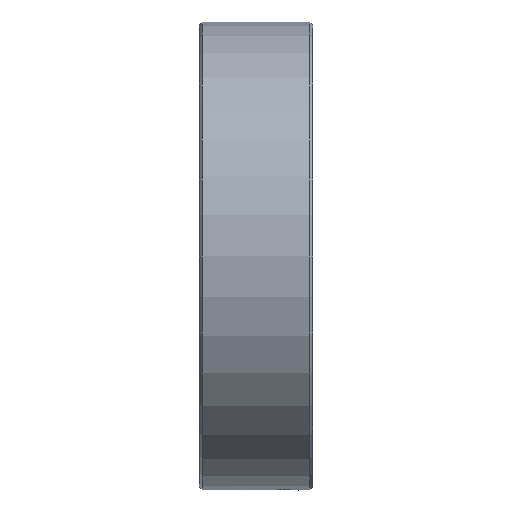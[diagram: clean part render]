
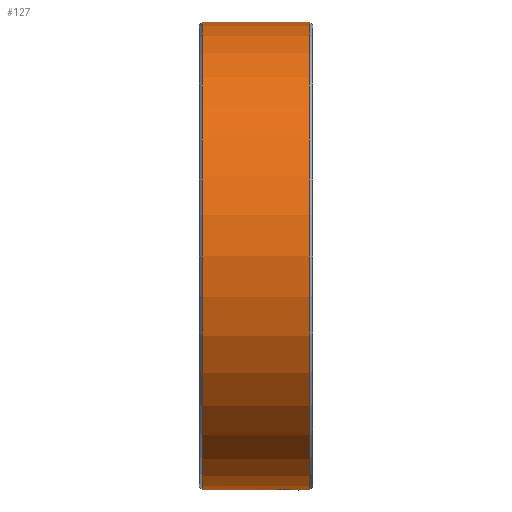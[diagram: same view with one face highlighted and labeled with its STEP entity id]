
A CAD part, front view. The second image highlights one B-rep face of the part: STEP entity #127.
In plain terms, the highlighted cylindrical face has radius 16.5 mm (diameter 33 mm), a partial arc.
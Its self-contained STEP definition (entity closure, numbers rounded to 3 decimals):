
#24 = AXIS2_PLACEMENT_3D ( 'NONE', #934, #345, #493 ) ;
#33 = CARTESIAN_POINT ( 'NONE',  ( -2.262, -0.974, -16.471 ) ) ;
#41 = DIRECTION ( 'NONE',  ( -1., 0., 0. ) ) ;
#46 = CARTESIAN_POINT ( 'NONE',  ( -0.2, 0., -16.5 ) ) ;
#50 = EDGE_CURVE ( 'NONE', #246, #128, #787, .T. ) ;
#53 = EDGE_CURVE ( 'NONE', #755, #907, #208, .T. ) ;
#69 = ORIENTED_EDGE ( 'NONE', *, *, #679, .F. ) ;
#80 = CARTESIAN_POINT ( 'NONE',  ( -1.2, -0.615, -16.489 ) ) ;
#99 = EDGE_CURVE ( 'NONE', #576, #134, #872, .T. ) ;
#100 = DIRECTION ( 'NONE',  ( -1., 0., 0. ) ) ;
#119 = B_SPLINE_CURVE_WITH_KNOTS ( 'NONE', 3,
 ( #378, #894, #223, #525, #80, #247, #844, #544, #321, #618 ),
 .UNSPECIFIED., .F., .F.,
 ( 4, 2, 2, 2, 4 ),
 ( 0.003, 0.004, 0.004, 0.004, 0.005 ),
 .UNSPECIFIED. ) ;
#127 = ADVANCED_FACE ( 'NONE', ( #349 ), #644, .T. ) ;
#128 = VERTEX_POINT ( 'NONE', #703 ) ;
#134 = VERTEX_POINT ( 'NONE', #803 ) ;
#142 = ORIENTED_EDGE ( 'NONE', *, *, #99, .T. ) ;
#145 = CARTESIAN_POINT ( 'NONE',  ( -7.8, 0., 0. ) ) ;
#162 = VECTOR ( 'NONE', #100, 1000. ) ;
#172 = DIRECTION ( 'NONE',  ( -1., 0., 0. ) ) ;
#208 = B_SPLINE_CURVE_WITH_KNOTS ( 'NONE', 3,
 ( #855, #926, #33, #694, #261, #482, #331, #627 ),
 .UNSPECIFIED., .F., .F.,
 ( 4, 2, 2, 4 ),
 ( 0.005, 0.005, 0.005, 0.006 ),
 .UNSPECIFIED. ) ;
#223 = CARTESIAN_POINT ( 'NONE',  ( -1.026, -0.262, -16.498 ) ) ;
#230 = ORIENTED_EDGE ( 'NONE', *, *, #949, .F. ) ;
#246 = VERTEX_POINT ( 'NONE', #46 ) ;
#247 = CARTESIAN_POINT ( 'NONE',  ( -1.385, -0.799, -16.481 ) ) ;
#249 = CARTESIAN_POINT ( 'NONE',  ( -92.99, 0., -16.5 ) ) ;
#261 = CARTESIAN_POINT ( 'NONE',  ( -2.615, -0.8, -16.481 ) ) ;
#278 = CIRCLE ( 'NONE', #653, 16.5 ) ;
#302 = ORIENTED_EDGE ( 'NONE', *, *, #53, .F. ) ;
#321 = CARTESIAN_POINT ( 'NONE',  ( -1.868, -1., -16.47 ) ) ;
#331 = CARTESIAN_POINT ( 'NONE',  ( -3., -0.264, -16.5 ) ) ;
#345 = DIRECTION ( 'NONE',  ( -1., 0., 0. ) ) ;
#349 = FACE_OUTER_BOUND ( 'NONE', #733, .T. ) ;
#359 = CARTESIAN_POINT ( 'NONE',  ( -2., -1., -16.47 ) ) ;
#360 = VECTOR ( 'NONE', #172, 1000. ) ;
#369 = DIRECTION ( 'NONE',  ( 0., 0., 1. ) ) ;
#378 = CARTESIAN_POINT ( 'NONE',  ( -1., 0., -16.5 ) ) ;
#393 = ORIENTED_EDGE ( 'NONE', *, *, #436, .F. ) ;
#409 = LINE ( 'NONE', #249, #360 ) ;
#436 = EDGE_CURVE ( 'NONE', #128, #755, #119, .T. ) ;
#438 = CIRCLE ( 'NONE', #497, 16.5 ) ;
#461 = ORIENTED_EDGE ( 'NONE', *, *, #521, .T. ) ;
#473 = CARTESIAN_POINT ( 'NONE',  ( -0.2, 0., 16.5 ) ) ;
#482 = CARTESIAN_POINT ( 'NONE',  ( -2.891, -0.523, -16.493 ) ) ;
#493 = DIRECTION ( 'NONE',  ( 0., 0., 1. ) ) ;
#497 = AXIS2_PLACEMENT_3D ( 'NONE', #145, #684, #369 ) ;
#521 = EDGE_CURVE ( 'NONE', #246, #576, #278, .T. ) ;
#525 = CARTESIAN_POINT ( 'NONE',  ( -1.126, -0.503, -16.493 ) ) ;
#530 = ORIENTED_EDGE ( 'NONE', *, *, #50, .F. ) ;
#544 = CARTESIAN_POINT ( 'NONE',  ( -1.738, -0.974, -16.471 ) ) ;
#562 = CARTESIAN_POINT ( 'NONE',  ( -92.99, 0., 16.5 ) ) ;
#571 = CARTESIAN_POINT ( 'NONE',  ( -7.8, 0., -16.5 ) ) ;
#576 = VERTEX_POINT ( 'NONE', #473 ) ;
#618 = CARTESIAN_POINT ( 'NONE',  ( -2., -1., -16.47 ) ) ;
#627 = CARTESIAN_POINT ( 'NONE',  ( -3., 0., -16.5 ) ) ;
#641 = CARTESIAN_POINT ( 'NONE',  ( -0.2, 0., 0. ) ) ;
#644 = CYLINDRICAL_SURFACE ( 'NONE', #24, 16.5 ) ;
#653 = AXIS2_PLACEMENT_3D ( 'NONE', #641, #41, #715 ) ;
#679 = EDGE_CURVE ( 'NONE', #907, #841, #409, .T. ) ;
#684 = DIRECTION ( 'NONE',  ( -1., 0., 0. ) ) ;
#694 = CARTESIAN_POINT ( 'NONE',  ( -2.504, -0.874, -16.477 ) ) ;
#703 = CARTESIAN_POINT ( 'NONE',  ( -1., 0., -16.5 ) ) ;
#707 = DIRECTION ( 'NONE',  ( -1., 0., 0. ) ) ;
#715 = DIRECTION ( 'NONE',  ( 0., 0., 1. ) ) ;
#719 = CARTESIAN_POINT ( 'NONE',  ( -3., 0., -16.5 ) ) ;
#727 = VECTOR ( 'NONE', #707, 1000. ) ;
#733 = EDGE_LOOP ( 'NONE', ( #530, #461, #142, #230, #69, #302, #393 ) ) ;
#755 = VERTEX_POINT ( 'NONE', #359 ) ;
#787 = LINE ( 'NONE', #928, #162 ) ;
#803 = CARTESIAN_POINT ( 'NONE',  ( -7.8, 0., 16.5 ) ) ;
#841 = VERTEX_POINT ( 'NONE', #571 ) ;
#844 = CARTESIAN_POINT ( 'NONE',  ( -1.496, -0.874, -16.477 ) ) ;
#855 = CARTESIAN_POINT ( 'NONE',  ( -2., -1., -16.47 ) ) ;
#872 = LINE ( 'NONE', #562, #727 ) ;
#894 = CARTESIAN_POINT ( 'NONE',  ( -1., -0.131, -16.5 ) ) ;
#907 = VERTEX_POINT ( 'NONE', #719 ) ;
#926 = CARTESIAN_POINT ( 'NONE',  ( -2.132, -1., -16.47 ) ) ;
#928 = CARTESIAN_POINT ( 'NONE',  ( -92.99, 0., -16.5 ) ) ;
#934 = CARTESIAN_POINT ( 'NONE',  ( -92.99, 0., 0. ) ) ;
#949 = EDGE_CURVE ( 'NONE', #841, #134, #438, .T. ) ;
